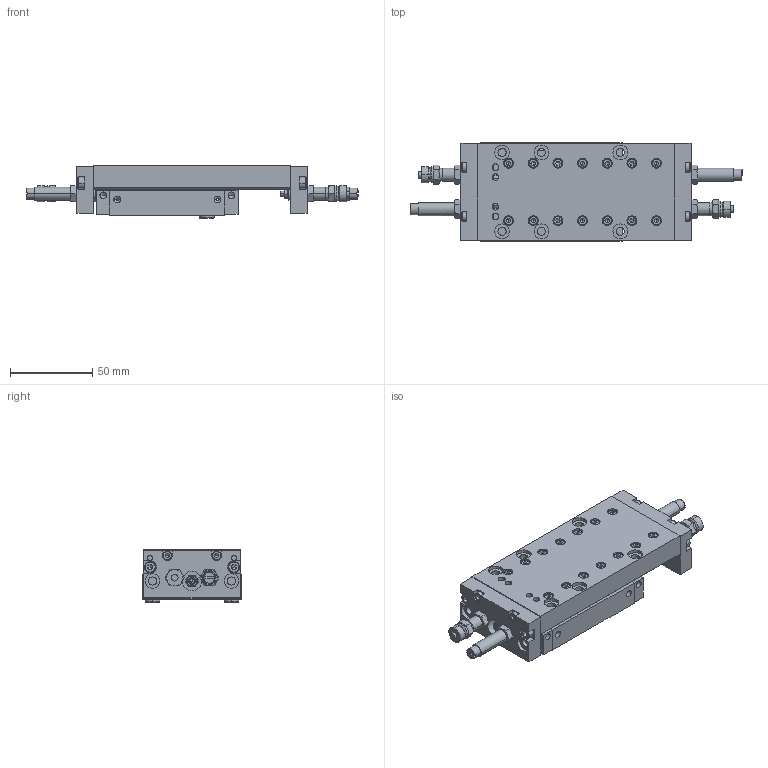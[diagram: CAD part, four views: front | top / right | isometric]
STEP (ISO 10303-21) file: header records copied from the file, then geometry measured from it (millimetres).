
FILE_DESCRIPTION((''),'2;1');
FILE_NAME('V:\CAD\Inventor-Stp\Linearelemente\LES\LES 16 neue Nummern\stp\1000001.stp','2006-02-17T10:58:46',('vs'),(''),'Autodesk Inventor 8','Autodesk Inventor 8','');
FILE_SCHEMA(('AUTOMOTIVE_DESIGN { 1 0 10303 214 1 1 1 1 }'));
Length unit declared in the file: millimetre
Products named in the file (3): Baugruppe1; 1000001-a; 1000001-b
Assembly tree (2 placements, depth 2):
  Baugruppe1
    1000001-a
    1000001-b
Bounding box: 202 x 60 x 31.9 mm (x, y, z)
Volume: 174549.6 mm3; surface area: 76420.9 mm2
Topology: 2 solids, 69 shells, 1926 faces, 4833 edges, 3085 vertices
Faces by surface type: plane 731, bspline 501, cylinder 328, cone 276, torus 90
Entity records: 64680 total; most frequent: CARTESIAN_POINT 20334, ORIENTED_EDGE 9386, DIRECTION 9104, EDGE_CURVE 4693, AXIS2_PLACEMENT_3D 3467, VERTEX_POINT 3085, EDGE_LOOP 2256, VECTOR 2170
